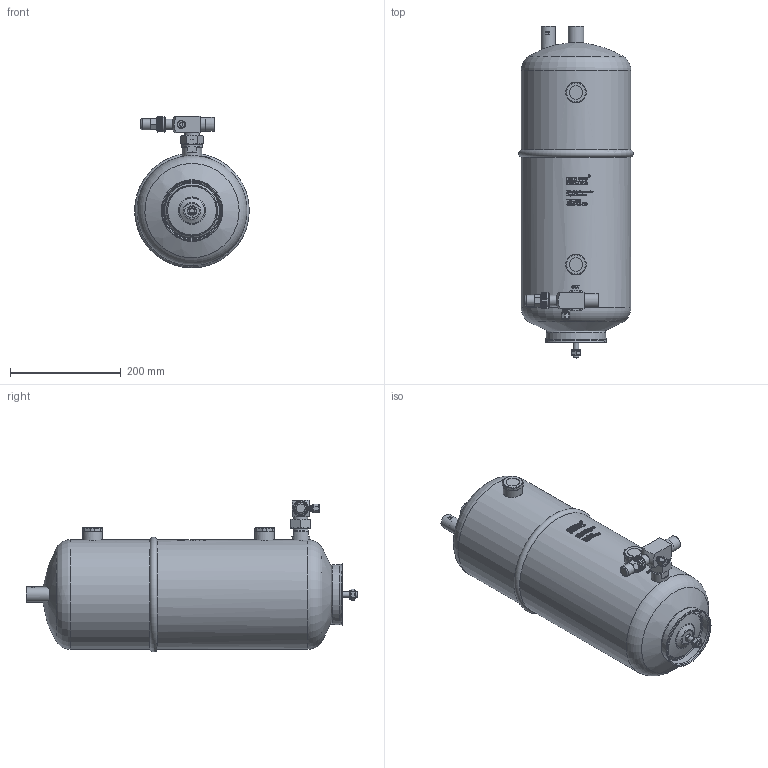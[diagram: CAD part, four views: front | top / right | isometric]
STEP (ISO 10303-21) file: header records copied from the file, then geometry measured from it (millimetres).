
FILE_DESCRIPTION(/* description */ (''),/* implementation_level */ '2;1');
FILE_NAME(/* name */ 'P:\SGS\SGS-15-CD\SGS-15-CD.stp',/* time_stamp */ '2017-10-05T09:09:33+02:00',/* author */ ('neufeld'),/* organization */ (''),/* preprocessor_version */ 'ST-DEVELOPER v16.1',/* originating_system */ 'Autodesk Inventor 2016',/* authorisation */ '');
FILE_SCHEMA (('AUTOMOTIVE_DESIGN { 1 0 10303 214 3 1 1 }'));
Length unit declared in the file: millimetre
Products named in the file (3): SGS-15-CD_1; SGS-15-CD_2; SGS-15-CD
Assembly tree (2 placements, depth 2):
  SGS-15-CD
    SGS-15-CD_1
    SGS-15-CD_2
Bounding box: 206.8 x 598.83 x 273.9 mm (x, y, z)
Volume: 15438277.1 mm3; surface area: 418851.7 mm2
Topology: 3 solids, 6 shells, 1601 faces, 4301 edges, 2844 vertices
Faces by surface type: bspline 632, plane 610, cylinder 262, cone 79, torus 15, sphere 3
Full cylindrical faces by diameter (mm): 4 x1, 6.5 x1, 9 x2, 9.4 x1, 10 x2, 10.1 x1, 10.72 x1, 11 x1, 14 x1, 17 x2, 18.631 x1, 19 x3, 20 x1, 20.131 x1, 22.1 x1, 22.2 x1, 22.22 x1, 22.3 x1, 22.4 x1, 23 x1, 24.2 x2, 24.5 x2, 25 x1, 25.4 x1, 26 x2, 27 x1, 28 x1, 28.7 x2, 29 x1, 29.5 x1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
Entity records: 62119 total; most frequent: CARTESIAN_POINT 26903, ORIENTED_EDGE 8356, DIRECTION 5386, EDGE_CURVE 4165, VERTEX_POINT 2807, LINE 1874, VECTOR 1874, EDGE_LOOP 1828
